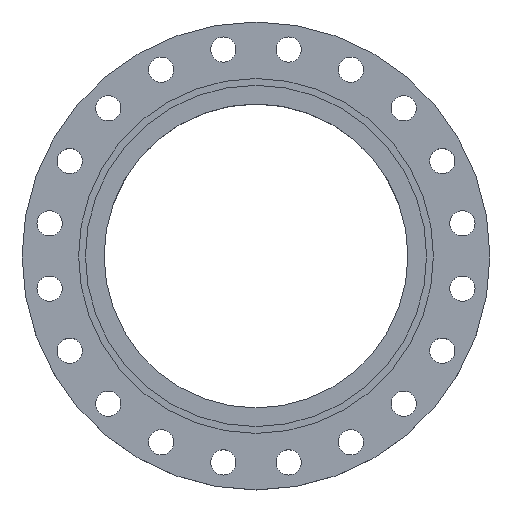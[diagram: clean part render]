
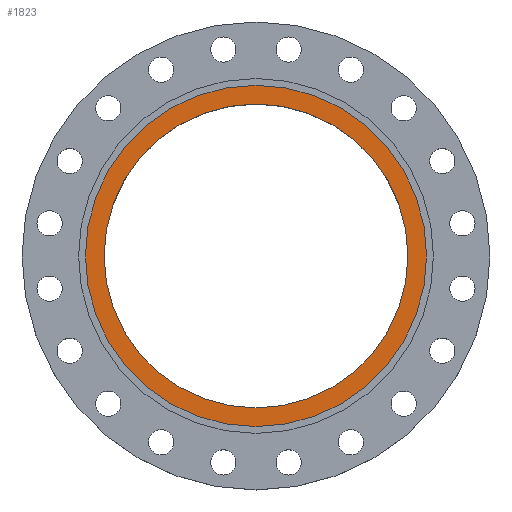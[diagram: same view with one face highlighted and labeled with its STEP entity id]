
A CAD part, top view. The second image highlights one B-rep face of the part: STEP entity #1823.
In plain terms, the highlighted planar face has unit normal (0, 0, 1).
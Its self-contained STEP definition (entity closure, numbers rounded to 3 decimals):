
#14 = AXIS2_PLACEMENT_3D ( 'NONE', #531, #533, #535 ) ;
#61 = CIRCLE ( 'NONE', #14, 324.5 ) ;
#281 = CARTESIAN_POINT ( 'NONE',  ( 324.5, 0., -5.5 ) ) ;
#463 = CIRCLE ( 'NONE', #813, 324.5 ) ;
#472 = DIRECTION ( 'NONE',  ( 1., 0., 0. ) ) ;
#530 = EDGE_CURVE ( 'NONE', #1711, #1892, #659, .T. ) ;
#531 = CARTESIAN_POINT ( 'NONE',  ( 0., 0., -5.5 ) ) ;
#533 = DIRECTION ( 'NONE',  ( 0., 0., -1. ) ) ;
#535 = DIRECTION ( 'NONE',  ( -1., 0., 0. ) ) ;
#545 = CIRCLE ( 'NONE', #1812, 289. ) ;
#659 = CIRCLE ( 'NONE', #661, 289. ) ;
#661 = AXIS2_PLACEMENT_3D ( 'NONE', #702, #699, #698 ) ;
#679 = PLANE ( 'NONE',  #1545 ) ;
#698 = DIRECTION ( 'NONE',  ( 1., 0., 0. ) ) ;
#699 = DIRECTION ( 'NONE',  ( 0., 0., -1. ) ) ;
#702 = CARTESIAN_POINT ( 'NONE',  ( 0., 0., -5.5 ) ) ;
#802 = CARTESIAN_POINT ( 'NONE',  ( -289., 0., -5.5 ) ) ;
#813 = AXIS2_PLACEMENT_3D ( 'NONE', #846, #1597, #2051 ) ;
#846 = CARTESIAN_POINT ( 'NONE',  ( 0., 0., -5.5 ) ) ;
#936 = EDGE_CURVE ( 'NONE', #1709, #1287, #61, .T. ) ;
#973 = EDGE_LOOP ( 'NONE', ( #1177, #1176 ) ) ;
#1132 = DIRECTION ( 'NONE',  ( 1., 0., 0. ) ) ;
#1171 = ORIENTED_EDGE ( 'NONE', *, *, #1792, .F. ) ;
#1173 = CARTESIAN_POINT ( 'NONE',  ( 289., 0., -5.5 ) ) ;
#1174 = ORIENTED_EDGE ( 'NONE', *, *, #936, .F. ) ;
#1176 = ORIENTED_EDGE ( 'NONE', *, *, #1589, .T. ) ;
#1177 = ORIENTED_EDGE ( 'NONE', *, *, #530, .T. ) ;
#1192 = DIRECTION ( 'NONE',  ( 0., 0., -1. ) ) ;
#1287 = VERTEX_POINT ( 'NONE', #281 ) ;
#1299 = CARTESIAN_POINT ( 'NONE',  ( 0., 0., -5.5 ) ) ;
#1414 = EDGE_LOOP ( 'NONE', ( #1174, #1171 ) ) ;
#1510 = CARTESIAN_POINT ( 'NONE',  ( 324.5, 0., -5.5 ) ) ;
#1545 = AXIS2_PLACEMENT_3D ( 'NONE', #1510, #1921, #472 ) ;
#1589 = EDGE_CURVE ( 'NONE', #1892, #1711, #545, .T. ) ;
#1597 = DIRECTION ( 'NONE',  ( 0., 0., -1. ) ) ;
#1624 = FACE_BOUND ( 'NONE', #973, .T. ) ;
#1709 = VERTEX_POINT ( 'NONE', #2087 ) ;
#1711 = VERTEX_POINT ( 'NONE', #802 ) ;
#1792 = EDGE_CURVE ( 'NONE', #1287, #1709, #463, .T. ) ;
#1812 = AXIS2_PLACEMENT_3D ( 'NONE', #1299, #1192, #1132 ) ;
#1823 = ADVANCED_FACE ( 'NONE', ( #1624, #2059 ), #679, .T. ) ;
#1892 = VERTEX_POINT ( 'NONE', #1173 ) ;
#1921 = DIRECTION ( 'NONE',  ( 0., 0., 1. ) ) ;
#2051 = DIRECTION ( 'NONE',  ( -1., 0., 0. ) ) ;
#2059 = FACE_OUTER_BOUND ( 'NONE', #1414, .T. ) ;
#2087 = CARTESIAN_POINT ( 'NONE',  ( -324.5, 0., -5.5 ) ) ;
